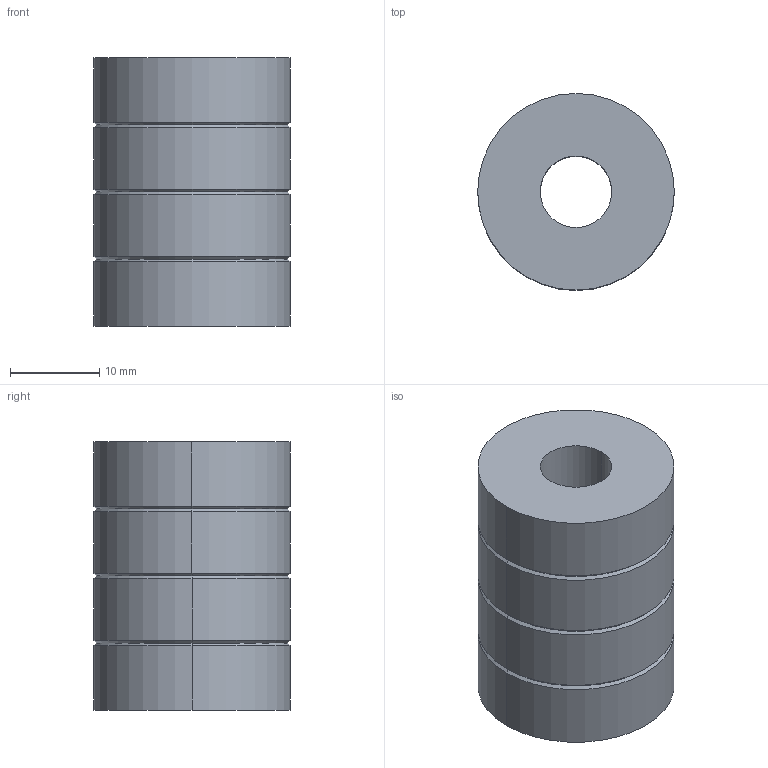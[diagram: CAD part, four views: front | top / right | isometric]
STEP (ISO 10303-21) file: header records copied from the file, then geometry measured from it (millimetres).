
FILE_DESCRIPTION(/* description */ (''),/* implementation_level */ '2;1');
FILE_NAME(/* name */ '3d_sgbl16-30_00007_r00.stp',/* time_stamp */ '2011-01-10T14:11:12+09:00',/* author */ ('MISUMI'),/* organization */ (''),/* preprocessor_version */ 'ST-DEVELOPER v11',/* originating_system */ 'UGS - NX 5.0',/* authorisation */ '');
FILE_SCHEMA (('CONFIG_CONTROL_DESIGN'));
Length unit declared in the file: millimetre
Products named in the file (1): 3d_sgbl16-30_00007_r00
Bounding box: 22 x 22 x 30 mm (x, y, z)
Volume: 9877.5 mm3; surface area: 3536.3 mm2
Topology: 1 solids, 1 shells, 24 faces, 48 edges, 26 vertices
Faces by surface type: cone 12, cylinder 10, plane 2
Entity records: 704 total; most frequent: DIRECTION 124, CARTESIAN_POINT 99, ORIENTED_EDGE 96, AXIS2_PLACEMENT_3D 51, EDGE_CURVE 48, EDGE_LOOP 26, VERTEX_POINT 26, CIRCLE 26
